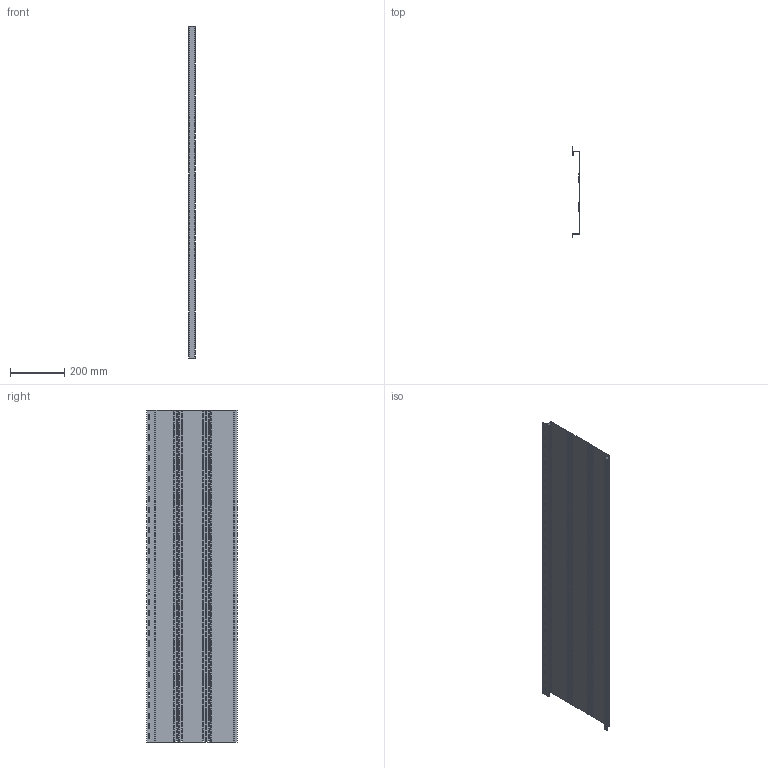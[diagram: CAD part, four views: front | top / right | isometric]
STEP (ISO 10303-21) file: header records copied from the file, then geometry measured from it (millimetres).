
FILE_DESCRIPTION(/* description */ (''),/* implementation_level */ '2;1');
FILE_NAME(/* name */ 'C:\Users\Utilisateur\Mac Metal\Site de communication - Documents\Ingénierie\1. Dessins techniques produits Mac\CAD _ REVIT Profiles drawing - MAC\Versa vent\VERSA VENTILATED.stp',/* time_stamp */ '2023-02-03T11:09:05-05:00',/* author */ ('Utilisateur'),/* organization */ (''),/* preprocessor_version */ 'ST-DEVELOPER v18.1',/* originating_system */ 'Autodesk Inventor 2022',/* authorisation */ '');
FILE_SCHEMA (('AUTOMOTIVE_DESIGN { 1 0 10303 214 3 1 1 }'));
Products named in the file (1): VERSA VENTILATED
Bounding box: 25.4 x 333.98 x 1227.94 mm (x, y, z)
Volume: 314798.4 mm3; surface area: 1021623.7 mm2
Topology: 1 solids, 1 shells, 5840 faces, 18418 edges, 11220 vertices
Faces by surface type: plane 3956, cylinder 1884
Entity records: 205193 total; most frequent: ORIENTED_EDGE 36836, CARTESIAN_POINT 35479, DIRECTION 35220, EDGE_CURVE 18418, LINE 13298, VECTOR 13298, VERTEX_POINT 11220, AXIS2_PLACEMENT_3D 10961
